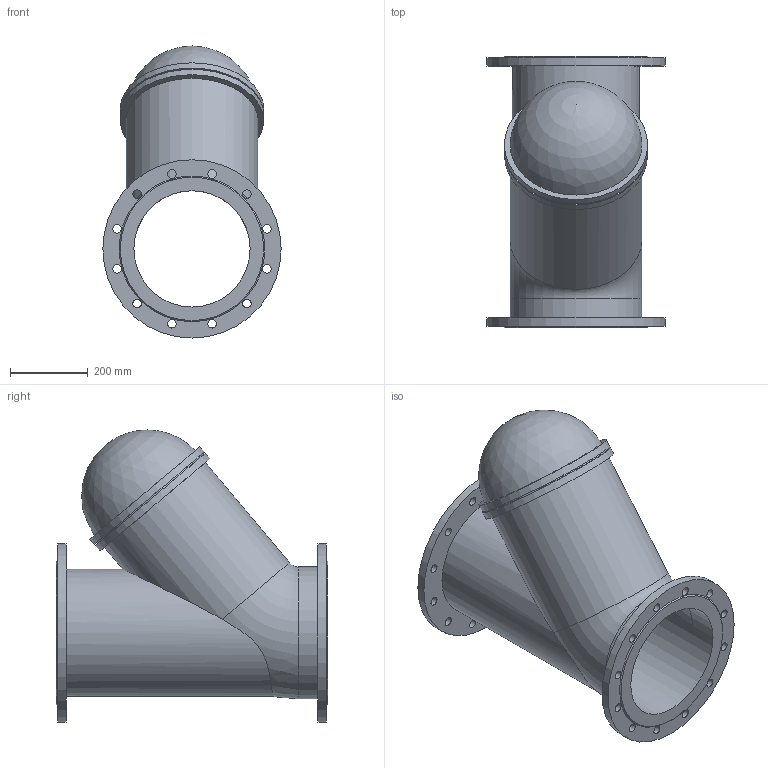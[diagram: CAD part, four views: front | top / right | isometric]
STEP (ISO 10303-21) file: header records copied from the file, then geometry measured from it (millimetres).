
FILE_DESCRIPTION(('STEP AP203'), '1');
FILE_NAME('Êëàïàí îáðàòíûé øàðîâîé ôëàíöåâûé 012F DN300', '', ('UNSPECIFIED'), ('UNSPECIFIED'), 'ASCON STEP Converter 1.6', 'ASCON Math Kernel', '');
FILE_SCHEMA(('CONFIG_CONTROL_DESIGN'));
Length unit declared in the file: millimetre
Bounding box: 460 x 700 x 753.5 mm (x, y, z)
Volume: 32120515.2 mm3; surface area: 2497779.8 mm2
Topology: 1 solids, 1 shells, 52 faces, 129 edges, 86 vertices
Faces by surface type: cylinder 35, plane 12, torus 2, cone 2, sphere 1
Full cylindrical faces by diameter (mm): 22 x24, 300 x2, 328 x1, 340 x2, 356 x1, 370 x2, 460 x2
Entity records: 2314 total; most frequent: CARTESIAN_POINT 626, DIRECTION 264, ORIENTED_EDGE 178, EDGE_LOOP 148, AXIS2_PLACEMENT_3D 132, EDGE_CURVE 89, VERTEX_POINT 85, CIRCLE 79
